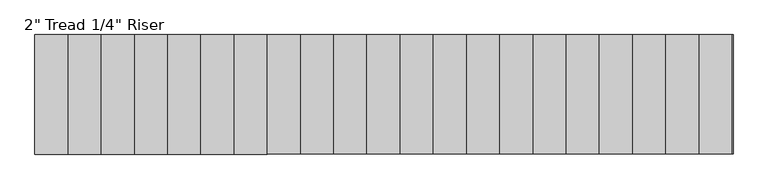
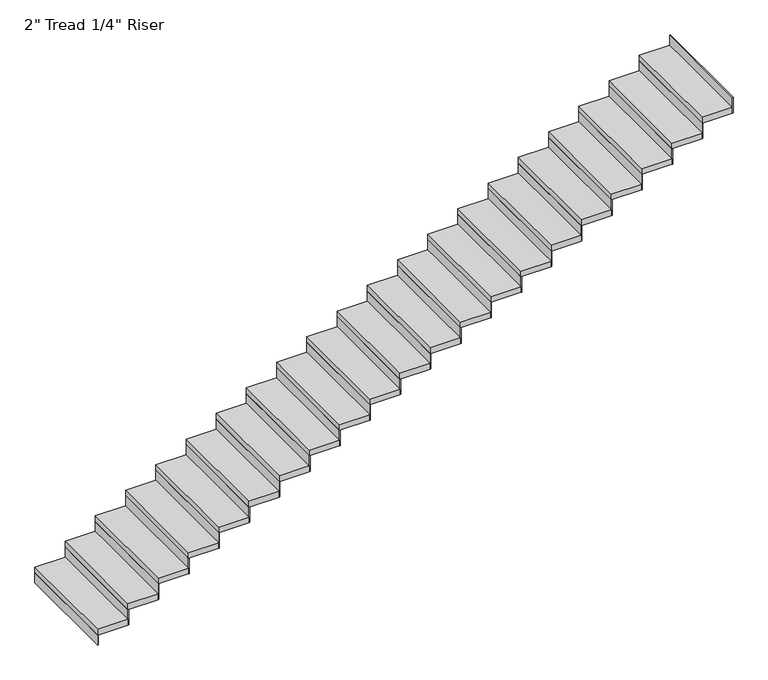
"""IFC4 building model written with IfcOpenShell, lengths in millimetres: stair flight geometry."""

from ifc_helpers import new_model, si_unit, frame, origin, origin_with_axes, place, context, project, spatial, polyline, outline, extrude, source, transform, mapped, element, save


def stair_flight_11199e40(model_context):
    return source(origin(), model_context, "Body", "SweptSolid", [
        extrude(outline(polyline([(10185.0667764, 15846.0395941), (10178.7167764, 15846.0395941), (10178.7167764, 16760.4395941), (10185.0667764, 16760.4395941), (10185.0667764, 15846.0395941)])), origin_with_axes(), (0.0, 0.0, 1.0), 87.7454545),
        extrude(outline(polyline([(10432.7167764, 16760.4395941), (10432.7167764, 15846.0395941), (10178.7167764, 15846.0395941), (10178.7167764, 16760.4395941), (10432.7167764, 16760.4395941)])), frame((0.0, 0.0, 87.7454545), z_axis=(0.0, 0.0, 1.0), x_axis=(1.0, 0.0, 0.0)), (0.0, 0.0, 1.0), 50.8),
        extrude(outline(polyline([(10439.0667764, 15846.0395941), (10432.7167764, 15846.0395941), (10432.7167764, 16760.4395941), (10439.0667764, 16760.4395941), (10439.0667764, 15846.0395941)])), frame((0.0, 0.0, 87.7454545), z_axis=(0.0, 0.0, 1.0), x_axis=(1.0, 0.0, 0.0)), (0.0, 0.0, 1.0), 138.5454545),
        extrude(outline(polyline([(10686.7167764, 16760.4395941), (10686.7167764, 15846.0395941), (10432.7167764, 15846.0395941), (10432.7167764, 16760.4395941), (10686.7167764, 16760.4395941)])), frame((0.0, 0.0, 226.2909091), z_axis=(0.0, 0.0, 1.0), x_axis=(1.0, 0.0, 0.0)), (0.0, 0.0, 1.0), 50.8),
        extrude(outline(polyline([(10693.0667764, 15846.0395941), (10686.7167764, 15846.0395941), (10686.7167764, 16760.4395941), (10693.0667764, 16760.4395941), (10693.0667764, 15846.0395941)])), frame((0.0, 0.0, 226.2909091), z_axis=(0.0, 0.0, 1.0), x_axis=(1.0, 0.0, 0.0)), (0.0, 0.0, 1.0), 138.5454545),
        extrude(outline(polyline([(10940.7167764, 16760.4395941), (10940.7167764, 15846.0395941), (10686.7167764, 15846.0395941), (10686.7167764, 16760.4395941), (10940.7167764, 16760.4395941)])), frame((0.0, 0.0, 364.8363636), z_axis=(0.0, 0.0, 1.0), x_axis=(1.0, 0.0, 0.0)), (0.0, 0.0, 1.0), 50.8),
        extrude(outline(polyline([(10947.0667764, 15846.0395941), (10940.7167764, 15846.0395941), (10940.7167764, 16760.4395941), (10947.0667764, 16760.4395941), (10947.0667764, 15846.0395941)])), frame((0.0, 0.0, 364.8363636), z_axis=(0.0, 0.0, 1.0), x_axis=(1.0, 0.0, 0.0)), (0.0, 0.0, 1.0), 138.5454545),
        extrude(outline(polyline([(11194.7167764, 16760.4395941), (11194.7167764, 15846.0395941), (10940.7167764, 15846.0395941), (10940.7167764, 16760.4395941), (11194.7167764, 16760.4395941)])), frame((0.0, 0.0, 503.3818182), z_axis=(0.0, 0.0, 1.0), x_axis=(1.0, 0.0, 0.0)), (0.0, 0.0, 1.0), 50.8),
        extrude(outline(polyline([(11201.0667764, 15846.0395941), (11194.7167764, 15846.0395941), (11194.7167764, 16760.4395941), (11201.0667764, 16760.4395941), (11201.0667764, 15846.0395941)])), frame((0.0, 0.0, 503.3818182), z_axis=(0.0, 0.0, 1.0), x_axis=(1.0, 0.0, 0.0)), (0.0, 0.0, 1.0), 138.5454545),
        extrude(outline(polyline([(11448.7167764, 16760.4395941), (11448.7167764, 15846.0395941), (11194.7167764, 15846.0395941), (11194.7167764, 16760.4395941), (11448.7167764, 16760.4395941)])), frame((0.0, 0.0, 641.9272727), z_axis=(0.0, 0.0, 1.0), x_axis=(1.0, 0.0, 0.0)), (0.0, 0.0, 1.0), 50.8),
        extrude(outline(polyline([(11455.0667764, 15846.0395941), (11448.7167764, 15846.0395941), (11448.7167764, 16760.4395941), (11455.0667764, 16760.4395941), (11455.0667764, 15846.0395941)])), frame((0.0, 0.0, 641.9272727), z_axis=(0.0, 0.0, 1.0), x_axis=(1.0, 0.0, 0.0)), (0.0, 0.0, 1.0), 138.5454545),
        extrude(outline(polyline([(11702.7167764, 16760.4395941), (11702.7167764, 15846.0395941), (11448.7167764, 15846.0395941), (11448.7167764, 16760.4395941), (11702.7167764, 16760.4395941)])), frame((0.0, 0.0, 780.4727273), z_axis=(0.0, 0.0, 1.0), x_axis=(1.0, 0.0, 0.0)), (0.0, 0.0, 1.0), 50.8),
        extrude(outline(polyline([(11709.0667764, 15846.0395941), (11702.7167764, 15846.0395941), (11702.7167764, 16760.4395941), (11709.0667764, 16760.4395941), (11709.0667764, 15846.0395941)])), frame((0.0, 0.0, 780.4727273), z_axis=(0.0, 0.0, 1.0), x_axis=(1.0, 0.0, 0.0)), (0.0, 0.0, 1.0), 138.5454545),
        extrude(outline(polyline([(11956.7167764, 16760.4395941), (11956.7167764, 15846.0395941), (11702.7167764, 15846.0395941), (11702.7167764, 16760.4395941), (11956.7167764, 16760.4395941)])), frame((0.0, 0.0, 919.0181818), z_axis=(0.0, 0.0, 1.0), x_axis=(1.0, 0.0, 0.0)), (0.0, 0.0, 1.0), 50.8),
        extrude(outline(polyline([(11963.0667764, 15846.0395941), (11956.7167764, 15846.0395941), (11956.7167764, 16760.4395941), (11963.0667764, 16760.4395941), (11963.0667764, 15846.0395941)])), frame((0.0, 0.0, 919.0181818), z_axis=(0.0, 0.0, 1.0), x_axis=(1.0, 0.0, 0.0)), (0.0, 0.0, 1.0), 138.5454545),
        extrude(outline(polyline([(12210.7167764, 16760.4395941), (12210.7167764, 15846.0395941), (11956.7167764, 15846.0395941), (11956.7167764, 16760.4395941), (12210.7167764, 16760.4395941)])), frame((0.0, 0.0, 1057.5636364), z_axis=(0.0, 0.0, 1.0), x_axis=(1.0, 0.0, 0.0)), (0.0, 0.0, 1.0), 50.8),
        extrude(outline(polyline([(12217.0667764, 15846.0395941), (12210.7167764, 15846.0395941), (12210.7167764, 16760.4395941), (12217.0667764, 16760.4395941), (12217.0667764, 15846.0395941)])), frame((0.0, 0.0, 1057.5636364), z_axis=(0.0, 0.0, 1.0), x_axis=(1.0, 0.0, 0.0)), (0.0, 0.0, 1.0), 138.5454545),
        extrude(outline(polyline([(12464.7167764, 16760.4395941), (12464.7167764, 15846.0395941), (12210.7167764, 15846.0395941), (12210.7167764, 16760.4395941), (12464.7167764, 16760.4395941)])), frame((0.0, 0.0, 1196.1090909), z_axis=(0.0, 0.0, 1.0), x_axis=(1.0, 0.0, 0.0)), (0.0, 0.0, 1.0), 50.8),
        extrude(outline(polyline([(12471.0667764, 15846.0395941), (12464.7167764, 15846.0395941), (12464.7167764, 16760.4395941), (12471.0667764, 16760.4395941), (12471.0667764, 15846.0395941)])), frame((0.0, 0.0, 1196.1090909), z_axis=(0.0, 0.0, 1.0), x_axis=(1.0, 0.0, 0.0)), (0.0, 0.0, 1.0), 138.5454545),
        extrude(outline(polyline([(12718.7167764, 16760.4395941), (12718.7167764, 15846.0395941), (12464.7167764, 15846.0395941), (12464.7167764, 16760.4395941), (12718.7167764, 16760.4395941)])), frame((0.0, 0.0, 1334.6545455), z_axis=(0.0, 0.0, 1.0), x_axis=(1.0, 0.0, 0.0)), (0.0, 0.0, 1.0), 50.8),
        extrude(outline(polyline([(12725.0667764, 15846.0395941), (12718.7167764, 15846.0395941), (12718.7167764, 16760.4395941), (12725.0667764, 16760.4395941), (12725.0667764, 15846.0395941)])), frame((0.0, 0.0, 1334.6545455), z_axis=(0.0, 0.0, 1.0), x_axis=(1.0, 0.0, 0.0)), (0.0, 0.0, 1.0), 138.5454545),
        extrude(outline(polyline([(12972.7167764, 16760.4395941), (12972.7167764, 15846.0395941), (12718.7167764, 15846.0395941), (12718.7167764, 16760.4395941), (12972.7167764, 16760.4395941)])), frame((0.0, 0.0, 1473.2), z_axis=(0.0, 0.0, 1.0), x_axis=(1.0, 0.0, 0.0)), (0.0, 0.0, 1.0), 50.8),
        extrude(outline(polyline([(12979.0667764, 15846.0395941), (12972.7167764, 15846.0395941), (12972.7167764, 16760.4395941), (12979.0667764, 16760.4395941), (12979.0667764, 15846.0395941)])), frame((0.0, 0.0, 1473.2), z_axis=(0.0, 0.0, 1.0), x_axis=(1.0, 0.0, 0.0)), (0.0, 0.0, 1.0), 138.5454545),
        extrude(outline(polyline([(13226.7167764, 16760.4395941), (13226.7167764, 15846.0395941), (12972.7167764, 15846.0395941), (12972.7167764, 16760.4395941), (13226.7167764, 16760.4395941)])), frame((0.0, 0.0, 1611.7454545), z_axis=(0.0, 0.0, 1.0), x_axis=(1.0, 0.0, 0.0)), (0.0, 0.0, 1.0), 50.8),
        extrude(outline(polyline([(13233.0667764, 15846.0395941), (13226.7167764, 15846.0395941), (13226.7167764, 16760.4395941), (13233.0667764, 16760.4395941), (13233.0667764, 15846.0395941)])), frame((0.0, 0.0, 1611.7454545), z_axis=(0.0, 0.0, 1.0), x_axis=(1.0, 0.0, 0.0)), (0.0, 0.0, 1.0), 138.5454545),
        extrude(outline(polyline([(13480.7167764, 16760.4395941), (13480.7167764, 15846.0395941), (13226.7167764, 15846.0395941), (13226.7167764, 16760.4395941), (13480.7167764, 16760.4395941)])), frame((0.0, 0.0, 1750.2909091), z_axis=(0.0, 0.0, 1.0), x_axis=(1.0, 0.0, 0.0)), (0.0, 0.0, 1.0), 50.8),
        extrude(outline(polyline([(13487.0667764, 15846.0395941), (13480.7167764, 15846.0395941), (13480.7167764, 16760.4395941), (13487.0667764, 16760.4395941), (13487.0667764, 15846.0395941)])), frame((0.0, 0.0, 1750.2909091), z_axis=(0.0, 0.0, 1.0), x_axis=(1.0, 0.0, 0.0)), (0.0, 0.0, 1.0), 138.5454545),
        extrude(outline(polyline([(13734.7167764, 16760.4395941), (13734.7167764, 15846.0395941), (13480.7167764, 15846.0395941), (13480.7167764, 16760.4395941), (13734.7167764, 16760.4395941)])), frame((0.0, 0.0, 1888.8363636), z_axis=(0.0, 0.0, 1.0), x_axis=(1.0, 0.0, 0.0)), (0.0, 0.0, 1.0), 50.8),
        extrude(outline(polyline([(13741.0667764, 15846.0395941), (13734.7167764, 15846.0395941), (13734.7167764, 16760.4395941), (13741.0667764, 16760.4395941), (13741.0667764, 15846.0395941)])), frame((0.0, 0.0, 1888.8363636), z_axis=(0.0, 0.0, 1.0), x_axis=(1.0, 0.0, 0.0)), (0.0, 0.0, 1.0), 138.5454545),
        extrude(outline(polyline([(13988.7167764, 16760.4395941), (13988.7167764, 15846.0395941), (13734.7167764, 15846.0395941), (13734.7167764, 16760.4395941), (13988.7167764, 16760.4395941)])), frame((0.0, 0.0, 2027.3818182), z_axis=(0.0, 0.0, 1.0), x_axis=(1.0, 0.0, 0.0)), (0.0, 0.0, 1.0), 50.8),
        extrude(outline(polyline([(13995.0667764, 15846.0395941), (13988.7167764, 15846.0395941), (13988.7167764, 16760.4395941), (13995.0667764, 16760.4395941), (13995.0667764, 15846.0395941)])), frame((0.0, 0.0, 2027.3818182), z_axis=(0.0, 0.0, 1.0), x_axis=(1.0, 0.0, 0.0)), (0.0, 0.0, 1.0), 138.5454545),
        extrude(outline(polyline([(14242.7167764, 16760.4395941), (14242.7167764, 15846.0395941), (13988.7167764, 15846.0395941), (13988.7167764, 16760.4395941), (14242.7167764, 16760.4395941)])), frame((0.0, 0.0, 2165.9272727), z_axis=(0.0, 0.0, 1.0), x_axis=(1.0, 0.0, 0.0)), (0.0, 0.0, 1.0), 50.8),
        extrude(outline(polyline([(14249.0667764, 15846.0395941), (14242.7167764, 15846.0395941), (14242.7167764, 16760.4395941), (14249.0667764, 16760.4395941), (14249.0667764, 15846.0395941)])), frame((0.0, 0.0, 2165.9272727), z_axis=(0.0, 0.0, 1.0), x_axis=(1.0, 0.0, 0.0)), (0.0, 0.0, 1.0), 138.5454545),
        extrude(outline(polyline([(14496.7167764, 16760.4395941), (14496.7167764, 15846.0395941), (14242.7167764, 15846.0395941), (14242.7167764, 16760.4395941), (14496.7167764, 16760.4395941)])), frame((0.0, 0.0, 2304.4727273), z_axis=(0.0, 0.0, 1.0), x_axis=(1.0, 0.0, 0.0)), (0.0, 0.0, 1.0), 50.8),
        extrude(outline(polyline([(14503.0667764, 15846.0395941), (14496.7167764, 15846.0395941), (14496.7167764, 16760.4395941), (14503.0667764, 16760.4395941), (14503.0667764, 15846.0395941)])), frame((0.0, 0.0, 2304.4727273), z_axis=(0.0, 0.0, 1.0), x_axis=(1.0, 0.0, 0.0)), (0.0, 0.0, 1.0), 138.5454545),
        extrude(outline(polyline([(14750.7167764, 16760.4395941), (14750.7167764, 15846.0395941), (14496.7167764, 15846.0395941), (14496.7167764, 16760.4395941), (14750.7167764, 16760.4395941)])), frame((0.0, 0.0, 2443.0181818), z_axis=(0.0, 0.0, 1.0), x_axis=(1.0, 0.0, 0.0)), (0.0, 0.0, 1.0), 50.8),
        extrude(outline(polyline([(14757.0667764, 15846.0395941), (14750.7167764, 15846.0395941), (14750.7167764, 16760.4395941), (14757.0667764, 16760.4395941), (14757.0667764, 15846.0395941)])), frame((0.0, 0.0, 2443.0181818), z_axis=(0.0, 0.0, 1.0), x_axis=(1.0, 0.0, 0.0)), (0.0, 0.0, 1.0), 138.5454545),
        extrude(outline(polyline([(15004.7167764, 16760.4395941), (15004.7167764, 15846.0395941), (14750.7167764, 15846.0395941), (14750.7167764, 16760.4395941), (15004.7167764, 16760.4395941)])), frame((0.0, 0.0, 2581.5636364), z_axis=(0.0, 0.0, 1.0), x_axis=(1.0, 0.0, 0.0)), (0.0, 0.0, 1.0), 50.8),
        extrude(outline(polyline([(15011.0667764, 15846.0395941), (15004.7167764, 15846.0395941), (15004.7167764, 16760.4395941), (15011.0667764, 16760.4395941), (15011.0667764, 15846.0395941)])), frame((0.0, 0.0, 2581.5636364), z_axis=(0.0, 0.0, 1.0), x_axis=(1.0, 0.0, 0.0)), (0.0, 0.0, 1.0), 138.5454545),
        extrude(outline(polyline([(15258.7167764, 16760.4395941), (15258.7167764, 15846.0395941), (15004.7167764, 15846.0395941), (15004.7167764, 16760.4395941), (15258.7167764, 16760.4395941)])), frame((0.0, 0.0, 2720.1090909), z_axis=(0.0, 0.0, 1.0), x_axis=(1.0, 0.0, 0.0)), (0.0, 0.0, 1.0), 50.8),
        extrude(outline(polyline([(15265.0667764, 15846.0395941), (15258.7167764, 15846.0395941), (15258.7167764, 16760.4395941), (15265.0667764, 16760.4395941), (15265.0667764, 15846.0395941)])), frame((0.0, 0.0, 2720.1090909), z_axis=(0.0, 0.0, 1.0), x_axis=(1.0, 0.0, 0.0)), (0.0, 0.0, 1.0), 138.5454545),
        extrude(outline(polyline([(15519.0667764, 15846.0395941), (15512.7167764, 15846.0395941), (15512.7167764, 16760.4395941), (15519.0667764, 16760.4395941), (15519.0667764, 15846.0395941)])), frame((0.0, 0.0, 2858.6545455), z_axis=(0.0, 0.0, 1.0), x_axis=(1.0, 0.0, 0.0)), (0.0, 0.0, 1.0), 138.5454545),
        extrude(outline(polyline([(15512.7167764, 16760.4395941), (15512.7167764, 15846.0395941), (15258.7167764, 15846.0395941), (15258.7167764, 16760.4395941), (15512.7167764, 16760.4395941)])), frame((0.0, 0.0, 2858.6545455), z_axis=(0.0, 0.0, 1.0), x_axis=(1.0, 0.0, 0.0)), (0.0, 0.0, 1.0), 50.8),
    ])


if __name__ == "__main__":
    model = new_model("IFC4")
    model_context = context("Model", 3, world=origin())
    ifc_project = project(units=[si_unit("LENGTHUNIT", "METRE", prefix="MILLI")], contexts=[model_context])
    site = spatial("IfcSite", under=ifc_project)
    building = spatial("IfcBuilding", under=site)
    placement = place(None, origin())
    stair_flight_shape = stair_flight_11199e40(model_context)
    element("IfcStairFlight", 1, ObjectType="2\" Tread 1/4\" Riser", at=placement, inside=building, context=model_context, shape_type="MappedRepresentation", body=[
        mapped(stair_flight_shape, transform((0.0, 0.0, 0.0), x_axis=(1.0, 0.0, 0.0), y_axis=(0.0, 1.0, 0.0), z_axis=(0.0, 0.0, 1.0))),
    ])
    save(model, "model.ifc")
